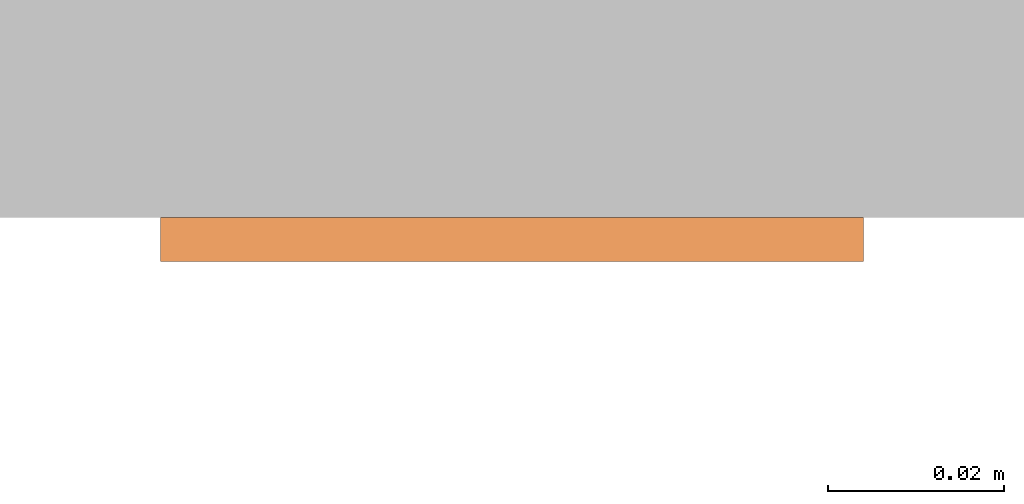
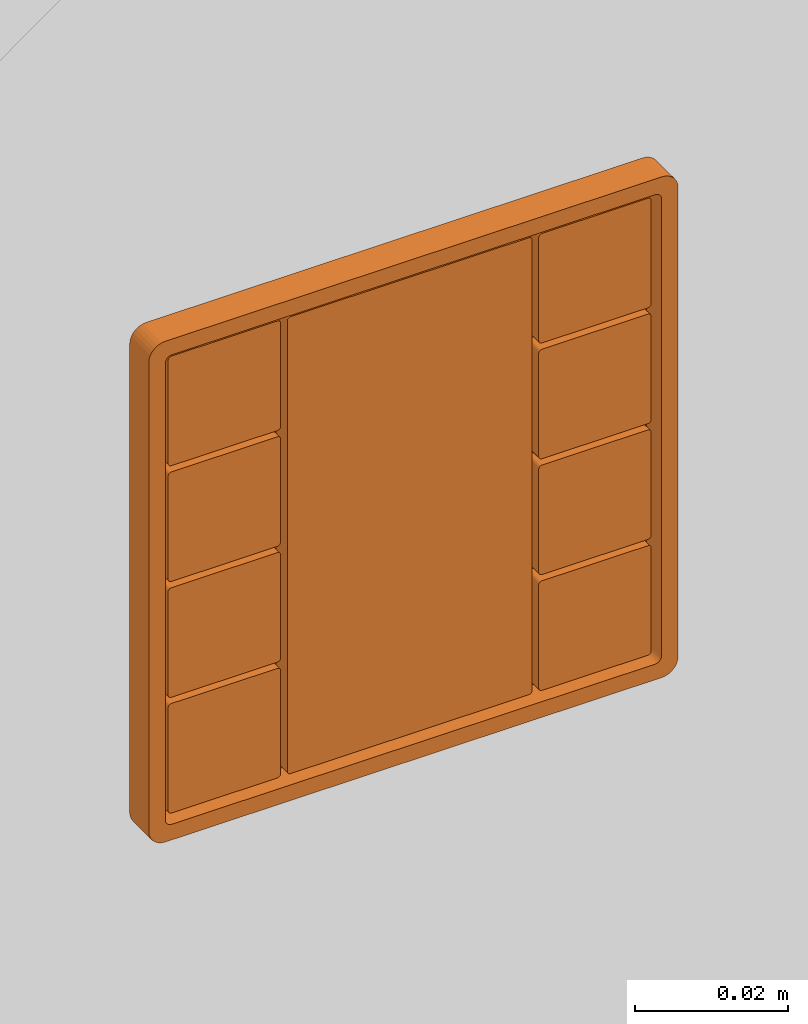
# One storey, part 76 of 197: 1 proxy.
"""IFC2X3 building model written with IfcOpenShell, lengths in metres."""

import ifcopenshell
import ifcopenshell.guid

model = None  # the IFC model being written
_history = None  # IfcOwnerHistory: only IFC2X3 demands one
_inside = {}  # id of a spatial element -> (the spatial element, [elements in it])
_under = {}  # id of a project, library or spatial element -> (it, [spatial elements below it])
_declared = {}  # id of a project -> (the project, [libraries it declares])
_typed = {}  # id of a type object -> (the type object, [elements of that type])
_made_of = {}  # id of a material, layer set ... -> (it, [elements and type objects made of it])


def new_model(schema):
    """Start an empty IFC model of exactly this schema.

    Asked for "IFC4X3", IfcOpenShell would pick the latest addendum, in which some entities
    have other attributes; the version numbers below select the first issue.
    IFC2X3 requires an IfcOwnerHistory on every rooted entity: one is made here for all.
    """
    global model, _history
    if schema == "IFC4X3":
        model = ifcopenshell.file(schema_version=(4, 3, 0, 0))
    else:
        model = ifcopenshell.file(schema=schema)
    _inside.clear()
    _under.clear()
    _declared.clear()
    _typed.clear()
    _made_of.clear()
    _history = None
    if model.schema == "IFC2X3":
        org = make("IfcOrganization", Name="unknown")
        user = make(
            "IfcPersonAndOrganization",
            ThePerson=make("IfcPerson", FamilyName="unknown"),
            TheOrganization=org,
        )
        app = make(
            "IfcApplication",
            ApplicationDeveloper=org,
            Version="unknown",
            ApplicationFullName="unknown",
            ApplicationIdentifier="unknown",
        )
        _history = make(
            "IfcOwnerHistory",
            OwningUser=user,
            OwningApplication=app,
            ChangeAction="ADDED",
            CreationDate=0,
        )
    return model


def make(cls, **values):
    """One entity of the class cls with the attributes given. An attribute that is None is left unset."""
    return model.create_entity(
        cls, **{name: value for name, value in values.items() if value is not None}
    )


def entity(cls, *values):
    """Any entity or typed value of the class cls, its attributes in the order of the schema. None: left unset."""
    e = model.create_entity(cls)
    for i, value in enumerate(values):
        if value is not None:
            e[i] = value
    return e


def rooted(cls, **values):
    """An entity with a GlobalId (a new one), such as an element, a storey or a relation."""
    return make(cls, GlobalId=ifcopenshell.guid.new(), OwnerHistory=_history, **values)


def si_unit(unit_type, name, prefix=None):
    """IfcSIUnit, for example si_unit("LENGTHUNIT", "METRE", prefix="MILLI")."""
    return make("IfcSIUnit", UnitType=unit_type, Prefix=prefix, Name=name)


def converted_unit(unit_type, name, factor, base, dimensions=None, offset=None):
    """IfcConversionBasedUnit, such as the inch: factor (a typed value) times the base unit."""
    return make(
        "IfcConversionBasedUnit"
        if offset is None
        else "IfcConversionBasedUnitWithOffset",
        ConversionOffset=offset,
        Dimensions=None
        if dimensions is None
        else entity("IfcDimensionalExponents", *dimensions),
        UnitType=unit_type,
        Name=name,
        ConversionFactor=make(
            "IfcMeasureWithUnit", ValueComponent=factor, UnitComponent=base
        ),
    )


def assignment(units):
    """IfcUnitAssignment: the units of a project."""
    return None if units is None else make("IfcUnitAssignment", Units=units)


def point(xyz):
    """IfcCartesianPoint."""
    return None if xyz is None else make("IfcCartesianPoint", Coordinates=xyz)


def direction(xyz):
    """IfcDirection."""
    return None if xyz is None else make("IfcDirection", DirectionRatios=xyz)


def frame(location, z_axis=None, x_axis=None):
    """IfcAxis2Placement3D, a coordinate frame: its origin and axes. An axis left out is left unset."""
    return make(
        "IfcAxis2Placement3D",
        Location=point(location),
        Axis=direction(z_axis),
        RefDirection=direction(x_axis),
    )


def frame_2d(location, x_axis=None):
    """IfcAxis2Placement2D, a coordinate frame in the plane: its origin and x axis."""
    return make(
        "IfcAxis2Placement2D", Location=point(location), RefDirection=direction(x_axis)
    )


def origin():
    """The frame at (0, 0, 0) with its axes left unset."""
    return frame((0.0, 0.0, 0.0))


def place(relative_to, where):
    """IfcLocalPlacement: puts the frame where relative to a parent placement (None: the world)."""
    return make(
        "IfcLocalPlacement", PlacementRelTo=relative_to, RelativePlacement=where
    )


def context(
    kind, dimensions, precision=None, world=None, true_north=None, identifier=None
):
    """IfcGeometricRepresentationContext, for example the 3D "Model" context."""
    return make(
        "IfcGeometricRepresentationContext",
        ContextIdentifier=identifier,
        ContextType=kind,
        CoordinateSpaceDimension=dimensions,
        Precision=precision,
        WorldCoordinateSystem=world,
        TrueNorth=true_north,
    )


def subcontext(parent, identifier, kind, view, scale=None):
    """IfcGeometricRepresentationSubContext, for example "Body" below "Model"."""
    return make(
        "IfcGeometricRepresentationSubContext",
        ContextIdentifier=identifier,
        ContextType=kind,
        ParentContext=parent,
        TargetScale=scale,
        TargetView=view,
    )


def project(units=None, contexts=None):
    """IfcProject with its units and contexts."""
    return rooted(
        "IfcProject",
        Name="project",
        RepresentationContexts=contexts,
        UnitsInContext=assignment(units),
    )


def spatial(cls, under=None, at=None, **own):
    """A site, building, storey or space (cls), placed at a placement, below another one or the project."""
    s = rooted(cls, ObjectPlacement=at, **own)
    if under is not None:
        _under.setdefault(under.id(), (under, []))[1].append(s)
    return s


def polyline(points):
    """IfcPolyline through the points."""
    return make("IfcPolyline", Points=[point(p) for p in points])


def circle_curve(where, radius):
    """IfcCircle in the frame where."""
    return make("IfcCircle", Position=where, Radius=radius)


def parameter(value):
    """IfcParameterValue: where a trimmed curve begins or ends, as a parameter of its basis curve."""
    return model.create_entity("IfcParameterValue", value)


def trimmed(basis, trim1, trim2, sense, master):
    """IfcTrimmedCurve: the piece of a basis curve between two trims."""
    return make(
        "IfcTrimmedCurve",
        BasisCurve=basis,
        Trim1=trim1,
        Trim2=trim2,
        SenseAgreement=sense,
        MasterRepresentation=master,
    )


def segment(curve, same_sense, transition):
    """IfcCompositeCurveSegment."""
    return make(
        "IfcCompositeCurveSegment",
        Transition=transition,
        SameSense=same_sense,
        ParentCurve=curve,
    )


def composite_curve(segments, self_intersect=None):
    """IfcCompositeCurve: segments joined end to end."""
    return make("IfcCompositeCurve", Segments=segments, SelfIntersect=self_intersect)


def outline(outer, holes=None, kind="AREA"):
    """IfcArbitraryClosedProfileDef: a profile drawn as a closed curve; with holes, ...WithVoids."""
    if holes is None:
        return make("IfcArbitraryClosedProfileDef", ProfileType=kind, OuterCurve=outer)
    return make(
        "IfcArbitraryProfileDefWithVoids",
        ProfileType=kind,
        OuterCurve=outer,
        InnerCurves=holes,
    )


def extrude(swept, where, along, depth):
    """IfcExtrudedAreaSolid: the profile swept, set in the frame where, extruded along a direction by depth."""
    return make(
        "IfcExtrudedAreaSolid",
        SweptArea=swept,
        Position=where,
        ExtrudedDirection=direction(along),
        Depth=depth,
    )


def shape(context_of_items, identifier, shape_type, items):
    """IfcShapeRepresentation: the items that make up one representation, for example the "Body"."""
    return make(
        "IfcShapeRepresentation",
        ContextOfItems=context_of_items,
        RepresentationIdentifier=identifier,
        RepresentationType=shape_type,
        Items=items,
    )


def source(mapping_origin, context_of_items, identifier, shape_type, items):
    """IfcRepresentationMap: a shape defined once, which mapped items show again and again."""
    return make(
        "IfcRepresentationMap",
        MappingOrigin=mapping_origin,
        MappedRepresentation=shape(context_of_items, identifier, shape_type, items),
    )


def transform(
    local_origin,
    x_axis=None,
    y_axis=None,
    z_axis=None,
    scale=None,
    scale2=None,
    scale3=None,
    uniform=True,
):
    """IfcCartesianTransformationOperator3D, or its non-uniform kind. x_axis, y_axis, z_axis: its Axis1, 2, 3."""
    if uniform:
        return make(
            "IfcCartesianTransformationOperator3D",
            Axis1=direction(x_axis),
            Axis2=direction(y_axis),
            LocalOrigin=point(local_origin),
            Scale=scale,
            Axis3=direction(z_axis),
        )
    return make(
        "IfcCartesianTransformationOperator3DnonUniform",
        Axis1=direction(x_axis),
        Axis2=direction(y_axis),
        LocalOrigin=point(local_origin),
        Scale=scale,
        Axis3=direction(z_axis),
        Scale2=scale2,
        Scale3=scale3,
    )


def mapped(mapping_source, mapping_target):
    """IfcMappedItem: shows the shape of a source again, moved by a transform."""
    return make(
        "IfcMappedItem", MappingSource=mapping_source, MappingTarget=mapping_target
    )


def material(Name=None, Category=None):
    """IfcMaterial."""
    return make("IfcMaterial", Name=Name, Category=Category)


def material_list(materials):
    """IfcMaterialList."""
    return make("IfcMaterialList", Materials=materials)


def made_of(thing, what):
    """Note that an element or type object is made of a material, layer set ...; save() writes the relation."""
    if what is not None:
        _made_of.setdefault(what.id(), (what, []))[1].append(thing)
    return thing


def type_object(cls, material=None, **own):
    """A type object (cls), such as IfcWallType, which elements share."""
    return made_of(rooted(cls, **own), material)


def type_shapes(of_type, sources):
    """Give a type object the sources (RepresentationMaps) that its elements show as mapped items."""
    of_type.RepresentationMaps = sources


def element(
    cls,
    number,
    at=None,
    inside=None,
    cuts=None,
    type_object=None,
    material=None,
    context=None,
    identifier="Body",
    shape_type=None,
    held_by="IfcProductDefinitionShape",
    body=None,
    shapes=None,
    **own,
):
    """One element of the class cls, such as IfcWall. Its Tag is "e" and its number.

    at: its placement. inside: the storey or other place that contains it. cuts: it is an
    opening in that element (IfcRelVoidsElement). A single representation is given by context,
    identifier, shape_type and body (its items); several are given by shapes. held_by: the class
    of the entity that holds the representations. save() writes the other relations.
    """
    e = rooted(cls, Tag="e%d" % number, ObjectPlacement=at, **own)
    if body is not None:
        shapes = [shape(context, identifier, shape_type, body)]
    if shapes is not None:
        e.Representation = make(held_by, Representations=shapes)
    if inside is not None:
        _inside.setdefault(inside.id(), (inside, []))[1].append(e)
    if cuts is not None:
        rooted(
            "IfcRelVoidsElement", RelatingBuildingElement=cuts, RelatedOpeningElement=e
        )
    if type_object is not None:
        _typed.setdefault(type_object.id(), (type_object, []))[1].append(e)
    return made_of(e, material)


def aggregate(whole, parts):
    """IfcRelAggregates: a whole, such as a stair, and the parts it consists of."""
    return rooted("IfcRelAggregates", RelatingObject=whole, RelatedObjects=parts)


def save(model, path):
    """Write the relations noted so far, then the file.

    IfcRelAggregates (storeys below a building ...), IfcRelContainedInSpatialStructure (elements
    in a storey), IfcRelDefinesByType, IfcRelAssociatesMaterial and IfcRelDeclares: one each for
    every whole, place, type object, material and project.
    """
    for whole, parts in _under.values():
        aggregate(whole, parts)
    for where, things in _inside.values():
        rooted(
            "IfcRelContainedInSpatialStructure",
            RelatedElements=things,
            RelatingStructure=where,
        )
    for kind, things in _typed.values():
        rooted("IfcRelDefinesByType", RelatedObjects=things, RelatingType=kind)
    for what, things in _made_of.values():
        rooted("IfcRelAssociatesMaterial", RelatedObjects=things, RelatingMaterial=what)
    for by, libraries in _declared.values():
        rooted("IfcRelDeclares", RelatingContext=by, RelatedDefinitions=libraries)
    model.write(path)


model = new_model("IFC2X3")

# Units and contexts
model_context = context("Model", 3, precision=1e-05, world=origin(), true_north=direction((6.123031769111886e-17, 1.0)))
body_context = subcontext(model_context, "Body", "Model", "MODEL_VIEW")
ifc_project = project(units=[si_unit("LENGTHUNIT", "METRE"), converted_unit("PLANEANGLEUNIT", "DEGREE", entity("IfcPlaneAngleMeasure", 0.017453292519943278), si_unit("PLANEANGLEUNIT", "RADIAN"), dimensions=[0, 0, 0, 0, 0, 0, 0]), si_unit("AREAUNIT", "SQUARE_METRE")], contexts=[model_context])

# Site, building, storey
site_placement = place(None, origin())
site = spatial("IfcSite", under=ifc_project, at=site_placement, Name="Default", CompositionType="ELEMENT")
building_placement = place(site_placement, origin())
building = spatial("IfcBuilding", under=site, at=building_placement, CompositionType="ELEMENT")
storey_placement = place(building_placement, origin())
storey = spatial("IfcBuildingStorey", under=building, at=storey_placement, Name="Niveau 0", CompositionType="ELEMENT", Elevation=0.0)

# Proxy
ifc_material_1 = material(Name="BETCE-CADRE MARRON 152-112-16")
ifc_material_2 = material(Name="<Unnamed>")
ifc_material_list = material_list([ifc_material_1, ifc_material_2])
building_element_proxy_type = type_object("IfcBuildingElementProxyType", Name="Bouton poussoir domotique encastré:MARRON", PredefinedType="NOTDEFINED", material=ifc_material_list)
shared_shape = source(origin(), body_context, "Body", "SweptSolid", [
    extrude(outline(composite_curve([segment(trimmed(circle_curve(frame_2d((-0.012727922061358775, -0.03818376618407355), x_axis=(-0.7071067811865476, 0.7071067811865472)), 0.0005), [parameter(90.00000000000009)], [parameter(180.00000000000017)], True, "PARAMETER"), True, "CONTINUOUS"), segment(polyline([(-0.0123743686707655, -0.03853731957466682), (0.03853731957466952, 0.012374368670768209)]), True, "CONTINUOUS"), segment(trimmed(circle_curve(frame_2d((0.03818376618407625, 0.012727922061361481), x_axis=(-0.7071067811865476, 0.7071067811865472)), 0.0005), [parameter(179.9999999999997)], [parameter(269.99999999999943)], True, "PARAMETER"), True, "CONTINUOUS"), segment(polyline([(0.03853731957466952, 0.013081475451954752), (0.01308147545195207, 0.03853731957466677)]), True, "CONTINUOUS"), segment(trimmed(circle_curve(frame_2d((0.012727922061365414, 0.038183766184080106), x_axis=(-0.7071067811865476, 0.7071067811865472)), 0.0004999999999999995), [parameter(269.99999999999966)], [parameter(0.0)], True, "PARAMETER"), True, "CONTINUOUS"), segment(polyline([(0.012374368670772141, 0.03853731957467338), (-0.038537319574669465, -0.01237436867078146)]), True, "CONTINUOUS"), segment(trimmed(circle_curve(frame_2d((-0.038183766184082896, -0.012727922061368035), x_axis=(-0.7071067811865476, 0.7071067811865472)), 0.0005), [parameter(359.9999999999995)], [parameter(90.00000000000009)], True, "PARAMETER"), True, "CONTINUOUS"), segment(polyline([(-0.03853731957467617, -0.01308147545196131), (-0.013081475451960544, -0.038537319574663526)]), True, "CONTINUOUS")], self_intersect=False)), frame((0.0, -0.003999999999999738, 0.0), z_axis=(0.0, 1.0, 0.0), x_axis=(0.7071067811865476, 0.0, -0.7071067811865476)), (0.0, 0.0, 1.0), 0.003),
    extrude(outline(composite_curve([segment(trimmed(circle_curve(frame_2d((-0.00017677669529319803, -0.011490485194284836), x_axis=(-0.7071067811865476, 0.7071067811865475)), 0.0005), [parameter(90.00000000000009)], [parameter(180.00000000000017)], True, "PARAMETER"), True, "CONTINUOUS"), segment(polyline([(0.0001767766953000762, -0.011844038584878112), (0.011844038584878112, -0.00017677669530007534)]), True, "CONTINUOUS"), segment(trimmed(circle_curve(frame_2d((0.011490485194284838, 0.0001767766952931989), x_axis=(-0.7071067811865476, 0.7071067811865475)), 0.0005), [parameter(180.00000000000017)], [parameter(269.99999999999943)], True, "PARAMETER"), True, "CONTINUOUS"), segment(polyline([(0.011844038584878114, 0.0005303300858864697), (0.0005303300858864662, 0.011844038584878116)]), True, "CONTINUOUS"), segment(trimmed(circle_curve(frame_2d((0.00017677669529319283, 0.011490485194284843), x_axis=(-0.7071067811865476, 0.7071067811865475)), 0.0005), [parameter(269.99999999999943)], [parameter(359.9999999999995)], True, "PARAMETER"), True, "CONTINUOUS"), segment(polyline([(-0.00017677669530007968, 0.01184403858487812), (-0.011844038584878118, 0.00017677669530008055)]), True, "CONTINUOUS"), segment(trimmed(circle_curve(frame_2d((-0.011490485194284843, -0.0001767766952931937), x_axis=(-0.7071067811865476, 0.7071067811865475)), 0.0005), [parameter(0.0)], [parameter(90.00000000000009)], True, "PARAMETER"), True, "CONTINUOUS"), segment(polyline([(-0.011844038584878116, -0.0005303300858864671), (-0.0005303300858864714, -0.01184403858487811)]), True, "CONTINUOUS")], self_intersect=False)), frame((-0.02800000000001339, -0.0039999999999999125, 0.0277500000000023), z_axis=(0.0, 1.0, 0.0), x_axis=(0.7071067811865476, 0.0, -0.7071067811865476)), (0.0, 0.0, 1.0), 0.003),
    extrude(outline(composite_curve([segment(trimmed(circle_curve(frame_2d((-0.00017677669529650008, -0.011490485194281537), x_axis=(-0.7071067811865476, 0.7071067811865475)), 0.0005), [parameter(90.00000000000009)], [parameter(180.00000000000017)], True, "PARAMETER"), True, "CONTINUOUS"), segment(polyline([(0.00017677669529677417, -0.01184403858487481), (0.011844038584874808, -0.0001767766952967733)]), True, "CONTINUOUS"), segment(trimmed(circle_curve(frame_2d((0.011490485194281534, 0.00017677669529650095), x_axis=(-0.7071067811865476, 0.7071067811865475)), 0.0005), [parameter(180.00000000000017)], [parameter(269.99999999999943)], True, "PARAMETER"), True, "CONTINUOUS"), segment(polyline([(0.011844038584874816, 0.0005303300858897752), (0.0005303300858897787, 0.01184403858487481)]), True, "CONTINUOUS"), segment(trimmed(circle_curve(frame_2d((0.00017677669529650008, 0.01149048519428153), x_axis=(-0.7071067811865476, 0.7071067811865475)), 0.0005), [parameter(269.99999999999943)], [parameter(0.0)], True, "PARAMETER"), True, "CONTINUOUS"), segment(polyline([(-0.00017677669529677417, 0.011844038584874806), (-0.011844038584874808, 0.0001767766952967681)]), True, "CONTINUOUS"), segment(trimmed(circle_curve(frame_2d((-0.011490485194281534, -0.00017677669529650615), x_axis=(-0.7071067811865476, 0.7071067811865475)), 0.0005), [parameter(0.0)], [parameter(90.00000000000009)], True, "PARAMETER"), True, "CONTINUOUS"), segment(polyline([(-0.011844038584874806, -0.0005303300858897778), (-0.0005303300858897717, -0.011844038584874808)]), True, "CONTINUOUS")], self_intersect=False)), frame((-0.02800000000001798, -0.0039999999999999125, -0.027750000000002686), z_axis=(0.0, 1.0, 0.0), x_axis=(0.7071067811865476, 0.0, -0.7071067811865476)), (0.0, 0.0, 1.0), 0.003),
    extrude(outline(composite_curve([segment(trimmed(circle_curve(frame_2d((-0.0001767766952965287, -0.01149048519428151), x_axis=(-0.7071067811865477, 0.7071067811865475)), 0.0005), [parameter(90.00000000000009)], [parameter(180.00000000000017)], True, "PARAMETER"), True, "CONTINUOUS"), segment(polyline([(0.00017677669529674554, -0.011844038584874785), (0.011844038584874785, -0.00017677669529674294)]), True, "CONTINUOUS"), segment(trimmed(circle_curve(frame_2d((0.011490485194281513, 0.00017677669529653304), x_axis=(-0.7071067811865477, 0.7071067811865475)), 0.0005), [parameter(180.0)], [parameter(269.99999999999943)], True, "PARAMETER"), True, "CONTINUOUS"), segment(polyline([(0.011844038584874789, 0.000530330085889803), (0.0005303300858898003, 0.011844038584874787)]), True, "CONTINUOUS"), segment(trimmed(circle_curve(frame_2d((0.00017677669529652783, 0.011490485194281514), x_axis=(-0.7071067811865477, 0.7071067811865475)), 0.0005), [parameter(269.99999999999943)], [parameter(359.9999999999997)], True, "PARAMETER"), True, "CONTINUOUS"), segment(polyline([(-0.0001767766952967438, 0.01184403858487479), (-0.011844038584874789, 0.00017677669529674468)]), True, "CONTINUOUS"), segment(trimmed(circle_curve(frame_2d((-0.011490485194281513, -0.0001767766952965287), x_axis=(-0.7071067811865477, 0.7071067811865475)), 0.0005), [parameter(0.0)], [parameter(90.00000000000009)], True, "PARAMETER"), True, "CONTINUOUS"), segment(polyline([(-0.011844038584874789, -0.000530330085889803), (-0.000530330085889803, -0.011844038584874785)]), True, "CONTINUOUS")], self_intersect=False)), frame((-0.028000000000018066, -0.0039999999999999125, 0.00925000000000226), z_axis=(0.0, 1.0, 0.0), x_axis=(0.7071067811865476, 0.0, -0.7071067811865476)), (0.0, 0.0, 1.0), 0.003),
    extrude(outline(composite_curve([segment(trimmed(circle_curve(frame_2d((-0.00017677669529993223, -0.011490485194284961), x_axis=(-0.7071067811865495, 0.7071067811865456)), 0.0005), [parameter(90.00000000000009)], [parameter(179.99999999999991)], True, "PARAMETER"), True, "CONTINUOUS"), segment(polyline([(0.00017677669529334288, -0.011844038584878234), (0.011844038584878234, -0.00017677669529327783)]), True, "CONTINUOUS"), segment(trimmed(circle_curve(frame_2d((0.01149048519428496, 0.00017677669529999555), x_axis=(-0.7071067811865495, 0.7071067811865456)), 0.0005), [parameter(180.00000000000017)], [parameter(269.99999999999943)], True, "PARAMETER"), True, "CONTINUOUS"), segment(polyline([(0.011844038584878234, 0.0005303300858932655), (0.0005303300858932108, 0.011844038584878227)]), True, "CONTINUOUS"), segment(trimmed(circle_curve(frame_2d((0.00017677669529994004, 0.011490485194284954), x_axis=(-0.7071067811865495, 0.7071067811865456)), 0.0005), [parameter(269.99999999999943)], [parameter(359.99999999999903)], True, "PARAMETER"), True, "CONTINUOUS"), segment(polyline([(-0.00017677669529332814, 0.011844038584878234), (-0.011844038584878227, 0.00017677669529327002)]), True, "CONTINUOUS"), segment(trimmed(circle_curve(frame_2d((-0.011490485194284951, -0.00017677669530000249), x_axis=(-0.7071067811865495, 0.7071067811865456)), 0.0005), [parameter(359.9999999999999)], [parameter(90.00000000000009)], True, "PARAMETER"), True, "CONTINUOUS"), segment(polyline([(-0.011844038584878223, -0.0005303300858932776), (-0.0005303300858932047, -0.011844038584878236)]), True, "CONTINUOUS")], self_intersect=False)), frame((-0.02800000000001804, -0.0039999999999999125, -0.009250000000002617), z_axis=(0.0, 1.0, 0.0), x_axis=(0.7071067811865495, 0.0, -0.7071067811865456)), (0.0, 0.0, 1.0), 0.003),
    extrude(outline(composite_curve([segment(polyline([(-0.008000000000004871, -0.008749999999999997), (0.008000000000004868, -0.008749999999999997)]), True, "CONTINUOUS"), segment(trimmed(circle_curve(frame_2d((0.00800000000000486, -0.008249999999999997), x_axis=(-1.0, 0.0)), 0.0005), [parameter(90.00000000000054)], [parameter(180.00000000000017)], True, "PARAMETER"), True, "CONTINUOUS"), segment(polyline([(0.008500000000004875, -0.008249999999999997), (0.008500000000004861, 0.00825000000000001)]), True, "CONTINUOUS"), segment(trimmed(circle_curve(frame_2d((0.00800000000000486, 0.008250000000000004), x_axis=(-1.0, 0.0)), 0.0005), [parameter(180.0000000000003)], [parameter(270.00000000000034)], True, "PARAMETER"), True, "CONTINUOUS"), segment(polyline([(0.008000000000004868, 0.008750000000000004), (-0.008000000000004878, 0.008750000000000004)]), True, "CONTINUOUS"), segment(trimmed(circle_curve(frame_2d((-0.008000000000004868, 0.008250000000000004), x_axis=(-1.0, 0.0)), 0.0005), [parameter(270.00000000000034)], [parameter(5.088887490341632e-13)], True, "PARAMETER"), True, "CONTINUOUS"), segment(polyline([(-0.008500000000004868, 0.008250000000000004), (-0.008500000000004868, -0.008249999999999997)]), True, "CONTINUOUS"), segment(trimmed(circle_curve(frame_2d((-0.008000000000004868, -0.008249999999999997), x_axis=(-1.0, 0.0)), 0.0005), [parameter(359.9999999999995)], [parameter(89.99999999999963)], True, "PARAMETER"), True, "CONTINUOUS")], self_intersect=False)), frame((0.02800000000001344, -0.003999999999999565, 0.027750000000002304), z_axis=(0.0, 1.0, 0.0), x_axis=(1.0, 0.0, 0.0)), (0.0, 0.0, 1.0), 0.003),
    extrude(outline(composite_curve([segment(polyline([(-0.00800000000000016, -0.008750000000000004), (0.00800000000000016, -0.008750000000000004)]), True, "CONTINUOUS"), segment(trimmed(circle_curve(frame_2d((0.00800000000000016, -0.008250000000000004), x_axis=(-1.0, 0.0)), 0.0005), [parameter(89.99999999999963)], [parameter(180.00000000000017)], True, "PARAMETER"), True, "CONTINUOUS"), segment(polyline([(0.00850000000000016, -0.008250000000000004), (0.00850000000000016, 0.008250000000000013)]), True, "CONTINUOUS"), segment(trimmed(circle_curve(frame_2d((0.00800000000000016, 0.008250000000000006), x_axis=(-1.0, 0.0)), 0.0005), [parameter(180.0000000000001)], [parameter(270.00000000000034)], True, "PARAMETER"), True, "CONTINUOUS"), segment(polyline([(0.008000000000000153, 0.008750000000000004), (-0.00800000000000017, 0.008750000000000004)]), True, "CONTINUOUS"), segment(trimmed(circle_curve(frame_2d((-0.008000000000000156, 0.008250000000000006), x_axis=(-1.0, 0.0)), 0.0005), [parameter(270.00000000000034)], [parameter(2.0355549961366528e-13)], True, "PARAMETER"), True, "CONTINUOUS"), segment(polyline([(-0.008500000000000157, 0.008250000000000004), (-0.008500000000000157, -0.008250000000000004)]), True, "CONTINUOUS"), segment(trimmed(circle_curve(frame_2d((-0.008000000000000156, -0.008250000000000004), x_axis=(-1.0, 0.0)), 0.0005), [parameter(359.9999999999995)], [parameter(89.99999999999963)], True, "PARAMETER"), True, "CONTINUOUS")], self_intersect=False)), frame((0.02800000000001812, -0.003999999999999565, 0.00925000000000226), z_axis=(0.0, 1.0, 0.0), x_axis=(1.0, 0.0, 0.0)), (0.0, 0.0, 1.0), 0.003),
    extrude(outline(composite_curve([segment(polyline([(-0.008000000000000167, -0.008750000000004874), (0.008000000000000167, -0.008750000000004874)]), True, "CONTINUOUS"), segment(trimmed(circle_curve(frame_2d((0.00800000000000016, -0.008250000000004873), x_axis=(-1.0, 0.0)), 0.0005), [parameter(90.00000000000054)], [parameter(179.99999999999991)], True, "PARAMETER"), True, "CONTINUOUS"), segment(polyline([(0.008500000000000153, -0.008250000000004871), (0.00850000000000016, 0.00825000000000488)]), True, "CONTINUOUS"), segment(trimmed(circle_curve(frame_2d((0.00800000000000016, 0.00825000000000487), x_axis=(-1.0, 0.0)), 0.0005), [parameter(180.00000000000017)], [parameter(270.00000000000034)], True, "PARAMETER"), True, "CONTINUOUS"), segment(polyline([(0.008000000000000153, 0.008750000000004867), (-0.008000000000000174, 0.008750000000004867)]), True, "CONTINUOUS"), segment(trimmed(circle_curve(frame_2d((-0.008000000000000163, 0.00825000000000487), x_axis=(-1.0, 0.0)), 0.0005), [parameter(270.00000000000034)], [parameter(0.0)], True, "PARAMETER"), True, "CONTINUOUS"), segment(polyline([(-0.008500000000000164, 0.00825000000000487), (-0.008500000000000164, -0.008250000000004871)]), True, "CONTINUOUS"), segment(trimmed(circle_curve(frame_2d((-0.008000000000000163, -0.008250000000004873), x_axis=(-1.0, 0.0)), 0.0005), [parameter(359.9999999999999)], [parameter(89.99999999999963)], True, "PARAMETER"), True, "CONTINUOUS")], self_intersect=False)), frame((0.028000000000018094, -0.003999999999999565, -0.009250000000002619), z_axis=(0.0, 1.0, 0.0), x_axis=(1.0, 0.0, 0.0)), (0.0, 0.0, 1.0), 0.003),
    extrude(outline(composite_curve([segment(polyline([(-0.008000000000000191, -0.008749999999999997), (0.008000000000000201, -0.008749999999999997)]), True, "CONTINUOUS"), segment(trimmed(circle_curve(frame_2d((0.008000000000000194, -0.00825), x_axis=(-1.0, 0.0)), 0.0005), [parameter(90.00000000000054)], [parameter(180.00000000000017)], True, "PARAMETER"), True, "CONTINUOUS"), segment(polyline([(0.008500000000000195, -0.00825), (0.008500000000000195, 0.008250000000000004)]), True, "CONTINUOUS"), segment(trimmed(circle_curve(frame_2d((0.008000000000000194, 0.008249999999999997), x_axis=(-1.0, 0.0)), 0.0005), [parameter(180.00000000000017)], [parameter(270.00000000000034)], True, "PARAMETER"), True, "CONTINUOUS"), segment(polyline([(0.008000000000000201, 0.008750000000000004), (-0.008000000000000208, 0.008750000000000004)]), True, "CONTINUOUS"), segment(trimmed(circle_curve(frame_2d((-0.008000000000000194, 0.008249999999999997), x_axis=(-1.0, 0.0)), 0.0005), [parameter(270.00000000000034)], [parameter(0.0)], True, "PARAMETER"), True, "CONTINUOUS"), segment(polyline([(-0.008500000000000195, 0.008249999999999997), (-0.008500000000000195, -0.00825)]), True, "CONTINUOUS"), segment(trimmed(circle_curve(frame_2d((-0.008000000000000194, -0.00825), x_axis=(-1.0, 0.0)), 0.0005), [parameter(359.99999999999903)], [parameter(89.99999999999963)], True, "PARAMETER"), True, "CONTINUOUS")], self_intersect=False)), frame((0.028000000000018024, -0.003999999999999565, -0.027750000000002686), z_axis=(0.0, 1.0, 0.0), x_axis=(1.0, 0.0, 0.0)), (0.0, 0.0, 1.0), 0.003),
    extrude(outline(composite_curve([segment(polyline([(-0.03650000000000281, -0.037499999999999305), (0.03650000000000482, -0.03749999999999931)]), True, "CONTINUOUS"), segment(trimmed(circle_curve(frame_2d((0.036500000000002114, -0.03649999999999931), x_axis=(0.0, -1.0)), 0.001), [parameter(1.5460040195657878e-10)], [parameter(90.00000000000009)], True, "PARAMETER"), True, "CONTINUOUS"), segment(polyline([(0.037500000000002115, -0.036499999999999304), (0.03750000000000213, 0.03649999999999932)]), True, "CONTINUOUS"), segment(trimmed(circle_curve(frame_2d((0.03650000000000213, 0.0364999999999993), x_axis=(0.0, -1.0)), 0.001), [parameter(90.00000000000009)], [parameter(179.99999999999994)], True, "PARAMETER"), True, "CONTINUOUS"), segment(polyline([(0.03650000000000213, 0.0374999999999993), (-0.036500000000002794, 0.03749999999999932)]), True, "CONTINUOUS"), segment(trimmed(circle_curve(frame_2d((-0.036500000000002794, 0.03649999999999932), x_axis=(0.0, -1.0)), 0.001), [parameter(179.9999999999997)], [parameter(269.9999999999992)], True, "PARAMETER"), True, "CONTINUOUS"), segment(polyline([(-0.037500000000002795, 0.03649999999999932), (-0.03750000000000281, -0.036499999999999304)]), True, "CONTINUOUS"), segment(trimmed(circle_curve(frame_2d((-0.03650000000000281, -0.036499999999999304), x_axis=(0.0, -1.0)), 0.001000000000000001), [parameter(269.99999999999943)], [parameter(359.9999999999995)], True, "PARAMETER"), True, "CONTINUOUS")], self_intersect=False)), frame((0.0, -0.000999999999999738, 0.0), z_axis=(0.0, 1.0, 0.0), x_axis=(0.0, 0.0, 1.0)), (0.0, 0.0, 1.0), 0.001),
    extrude(outline(composite_curve([segment(trimmed(circle_curve(frame_2d((-0.03749999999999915, 0.037499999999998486), x_axis=(1.0, 0.0)), 0.0025), [parameter(90.00000000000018)], [parameter(180.00000000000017)], True, "PARAMETER"), True, "CONTINUOUS"), segment(polyline([(-0.03999999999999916, 0.037499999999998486), (-0.03999999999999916, -0.03749999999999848)]), True, "CONTINUOUS"), segment(trimmed(circle_curve(frame_2d((-0.03749999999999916, -0.03749999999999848), x_axis=(1.0, 0.0)), 0.0025), [parameter(180.00000000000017)], [parameter(269.9999999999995)], True, "PARAMETER"), True, "CONTINUOUS"), segment(polyline([(-0.03749999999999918, -0.03999999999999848), (0.03749999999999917, -0.03999999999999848)]), True, "CONTINUOUS"), segment(trimmed(circle_curve(frame_2d((0.03749999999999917, -0.037499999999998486), x_axis=(1.0, 0.0)), 0.0025), [parameter(269.99999999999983)], [parameter(0.0)], True, "PARAMETER"), True, "CONTINUOUS"), segment(polyline([(0.03999999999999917, -0.03749999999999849), (0.03999999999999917, 0.037499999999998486)]), True, "CONTINUOUS"), segment(trimmed(circle_curve(frame_2d((0.03749999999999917, 0.037499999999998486), x_axis=(1.0, 0.0)), 0.0025), [parameter(359.9999999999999)], [parameter(90.00000000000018)], True, "PARAMETER"), True, "CONTINUOUS"), segment(polyline([(0.03749999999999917, 0.03999999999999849), (-0.03749999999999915, 0.03999999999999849)]), True, "CONTINUOUS")], self_intersect=False), holes=[composite_curve([segment(polyline([(0.03649999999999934, -0.037500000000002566), (-0.03649999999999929, -0.037500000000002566)]), True, "CONTINUOUS"), segment(trimmed(circle_curve(frame_2d((-0.036499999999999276, -0.036500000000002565), x_axis=(1.0, 0.0)), 0.001), [parameter(180.0000000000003)], [parameter(269.9999999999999)], True, "PARAMETER"), False, "CONTINUOUS"), segment(polyline([(-0.03749999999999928, -0.03650000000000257), (-0.03749999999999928, 0.036500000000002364)]), True, "CONTINUOUS"), segment(trimmed(circle_curve(frame_2d((-0.036499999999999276, 0.03650000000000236), x_axis=(1.0, 0.0)), 0.001), [parameter(90.00000000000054)], [parameter(180.00000000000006)], True, "PARAMETER"), False, "CONTINUOUS"), segment(polyline([(-0.03649999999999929, 0.03750000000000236), (0.03649999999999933, 0.03750000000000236)]), True, "CONTINUOUS"), segment(trimmed(circle_curve(frame_2d((0.03649999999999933, 0.03650000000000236), x_axis=(1.0, 0.0)), 0.001), [parameter(5.088887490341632e-13)], [parameter(90.00000000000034)], True, "PARAMETER"), False, "CONTINUOUS"), segment(polyline([(0.03749999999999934, 0.03650000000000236), (0.03749999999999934, -0.03650000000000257)]), True, "CONTINUOUS"), segment(trimmed(circle_curve(frame_2d((0.03649999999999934, -0.036500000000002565), x_axis=(1.0, 0.0)), 0.001000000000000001), [parameter(269.99999999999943)], [parameter(0.0)], True, "PARAMETER"), False, "CONTINUOUS")], self_intersect=False)]), frame((0.0, -0.004999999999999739, 0.0), z_axis=(0.0, 1.0, 0.0), x_axis=(-1.0, 0.0, 0.0)), (0.0, 0.0, 1.0), 0.005),
])
type_shapes(building_element_proxy_type, [shared_shape])
proxy_placement = place(storey_placement, frame((-402.0234485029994, 122.781355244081, 1.1)))
element("IfcBuildingElementProxy", 1, at=proxy_placement, inside=storey, type_object=building_element_proxy_type, material=ifc_material_list, Name="Bouton poussoir domotique encastré:MARRON", ObjectType="Bouton poussoir domotique encastré:MARRON", context=body_context, shape_type="MappedRepresentation", body=[
    mapped(shared_shape, transform((0.0, 0.0, 0.0), scale=1.0)),
])

save(model, "model.ifc")
